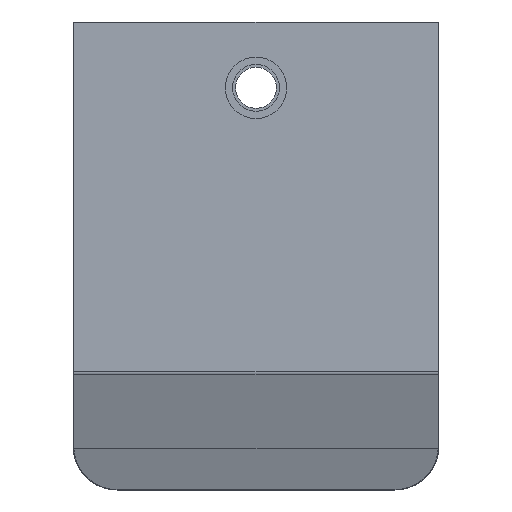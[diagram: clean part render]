
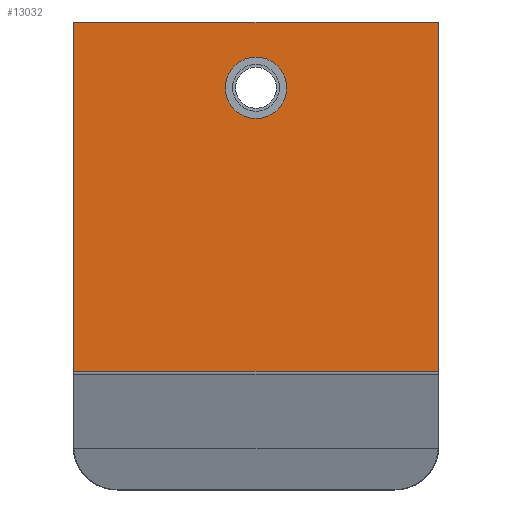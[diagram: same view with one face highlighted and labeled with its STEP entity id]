
A CAD part, front view. The second image highlights one B-rep face of the part: STEP entity #13032.
In plain terms, the highlighted planar face has unit normal (0, -1, 0).
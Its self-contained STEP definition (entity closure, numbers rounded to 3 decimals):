
#3495=CARTESIAN_POINT('Axis2P3D Location',(0.,0.,57.5)) ;
#3499=CARTESIAN_POINT('Vertex',(-10.5,0.,57.5)) ;
#3501=CARTESIAN_POINT('Vertex',(10.5,0.,57.5)) ;
#3530=CARTESIAN_POINT('Axis2P3D Location',(0.,0.,57.5)) ;
#8041=CARTESIAN_POINT('Axis2P3D Location',(0.,0.,0.)) ;
#12819=CARTESIAN_POINT('Vertex',(-62.3,0.,-39.547)) ;
#12835=CARTESIAN_POINT('Vertex',(62.3,0.,-39.547)) ;
#12838=CARTESIAN_POINT('Line Origine',(0.,0.,-39.547)) ;
#13003=CARTESIAN_POINT('Line Origine',(62.3,0.,20.127)) ;
#13007=CARTESIAN_POINT('Vertex',(62.3,0.,79.8)) ;
#13010=CARTESIAN_POINT('Line Origine',(0.,0.,79.8)) ;
#13014=CARTESIAN_POINT('Vertex',(-62.3,0.,79.8)) ;
#13017=CARTESIAN_POINT('Line Origine',(-62.3,0.,20.127)) ;
#3496=DIRECTION('Axis2P3D Direction',(0.,-1.,0.)) ;
#3531=DIRECTION('Axis2P3D Direction',(0.,-1.,0.)) ;
#8042=DIRECTION('Axis2P3D Direction',(0.,1.,-0.)) ;
#8043=DIRECTION('Axis2P3D XDirection',(-1.,0.,0.)) ;
#12839=DIRECTION('Vector Direction',(-1.,0.,0.)) ;
#13004=DIRECTION('Vector Direction',(0.,0.,1.)) ;
#13011=DIRECTION('Vector Direction',(-1.,0.,0.)) ;
#13018=DIRECTION('Vector Direction',(0.,0.,-1.)) ;
#3497=AXIS2_PLACEMENT_3D('Circle Axis2P3D',#3495,#3496,$) ;
#3532=AXIS2_PLACEMENT_3D('Circle Axis2P3D',#3530,#3531,$) ;
#8044=AXIS2_PLACEMENT_3D('Plane Axis2P3D',#8041,#8042,#8043) ;
#13023=ORIENTED_EDGE('',*,*,#13009,.T.) ;
#13024=ORIENTED_EDGE('',*,*,#13016,.T.) ;
#13025=ORIENTED_EDGE('',*,*,#13021,.T.) ;
#13026=ORIENTED_EDGE('',*,*,#12842,.T.) ;
#13029=ORIENTED_EDGE('',*,*,#3534,.T.) ;
#13030=ORIENTED_EDGE('',*,*,#3503,.T.) ;
#13031=FACE_BOUND('',#13028,.T.) ;
#12840=VECTOR('Line Direction',#12839,1.) ;
#13005=VECTOR('Line Direction',#13004,1.) ;
#13012=VECTOR('Line Direction',#13011,1.) ;
#13019=VECTOR('Line Direction',#13018,1.) ;
#13032=ADVANCED_FACE('\X2\96F64EF651E04F554F53\X0\',(#13027,#13031),#8045,.F.) ;
#3498=CIRCLE('generated circle',#3497,10.5) ;
#3533=CIRCLE('generated circle',#3532,10.5) ;
#3503=EDGE_CURVE('',#3500,#3502,#3498,.F.) ;
#3534=EDGE_CURVE('',#3502,#3500,#3533,.F.) ;
#12842=EDGE_CURVE('',#12820,#12836,#12841,.F.) ;
#13009=EDGE_CURVE('',#12836,#13008,#13006,.T.) ;
#13016=EDGE_CURVE('',#13008,#13015,#13013,.T.) ;
#13021=EDGE_CURVE('',#13015,#12820,#13020,.T.) ;
#13022=EDGE_LOOP('',(#13023,#13024,#13025,#13026)) ;
#13028=EDGE_LOOP('',(#13029,#13030)) ;
#13027=FACE_OUTER_BOUND('',#13022,.T.) ;
#12841=LINE('Line',#12838,#12840) ;
#13006=LINE('Line',#13003,#13005) ;
#13013=LINE('Line',#13010,#13012) ;
#13020=LINE('Line',#13017,#13019) ;
#8045=PLANE('',#8044) ;
#3500=VERTEX_POINT('',#3499) ;
#3502=VERTEX_POINT('',#3501) ;
#12820=VERTEX_POINT('',#12819) ;
#12836=VERTEX_POINT('',#12835) ;
#13008=VERTEX_POINT('',#13007) ;
#13015=VERTEX_POINT('',#13014) ;
